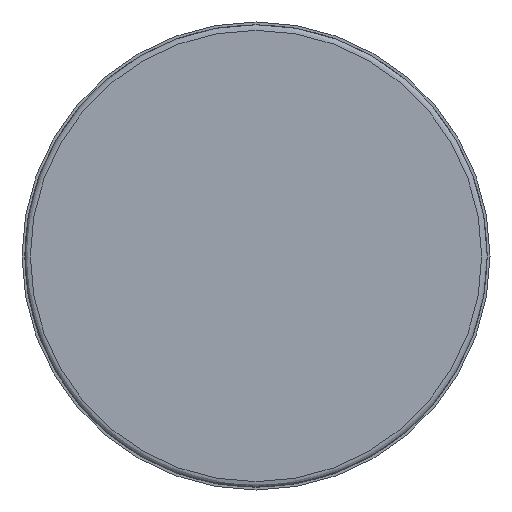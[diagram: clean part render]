
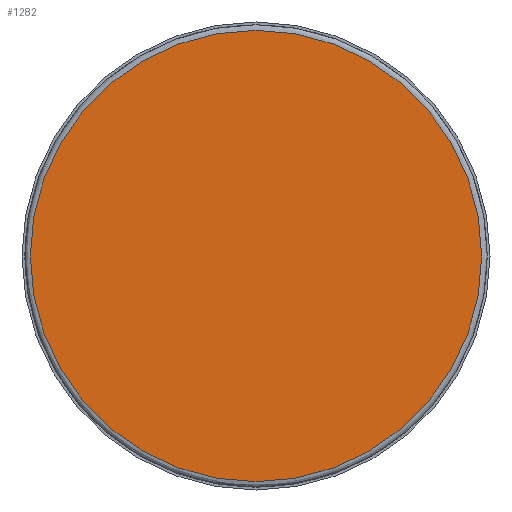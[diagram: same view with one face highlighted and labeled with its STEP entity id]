
A CAD part, left-side view. The second image highlights one B-rep face of the part: STEP entity #1282.
In plain terms, the highlighted planar face has unit normal (-1, 0, 0).
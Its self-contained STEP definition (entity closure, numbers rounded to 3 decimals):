
#1257=CARTESIAN_POINT('',(-850.012,-644.275,113.041));
#1258=DIRECTION('',(-1.0,0.0,0.0));
#1259=DIRECTION('',(0.0,1.0,0.0));
#1260=AXIS2_PLACEMENT_3D('',#1257,#1258,#1259);
#1261=PLANE('',#1260);
#1262=CARTESIAN_POINT('',(-850.012,-553.975,63.241));
#1263=VERTEX_POINT('',#1262);
#1264=CARTESIAN_POINT('',(-850.012,-634.975,63.241));
#1265=VERTEX_POINT('',#1264);
#1266=CARTESIAN_POINT('',(-850.012,-594.475,63.241));
#1267=DIRECTION('',(-1.0,0.0,0.0));
#1268=DIRECTION('',(0.0,1.0,0.0));
#1269=AXIS2_PLACEMENT_3D('',#1266,#1267,#1268);
#1270=CIRCLE('',#1269,40.5);
#1271=EDGE_CURVE('',#1263,#1265,#1270,.T.);
#1272=ORIENTED_EDGE('',*,*,#1271,.T.);
#1273=CARTESIAN_POINT('',(-850.012,-594.475,63.241));
#1274=DIRECTION('',(-1.0,0.0,0.0));
#1275=DIRECTION('',(0.0,1.0,0.0));
#1276=AXIS2_PLACEMENT_3D('',#1273,#1274,#1275);
#1277=CIRCLE('',#1276,40.5);
#1278=EDGE_CURVE('',#1265,#1263,#1277,.T.);
#1279=ORIENTED_EDGE('',*,*,#1278,.T.);
#1280=EDGE_LOOP('',(#1272,#1279));
#1281=FACE_OUTER_BOUND('',#1280,.T.);
#1282=ADVANCED_FACE('',(#1281),#1261,.T.);
